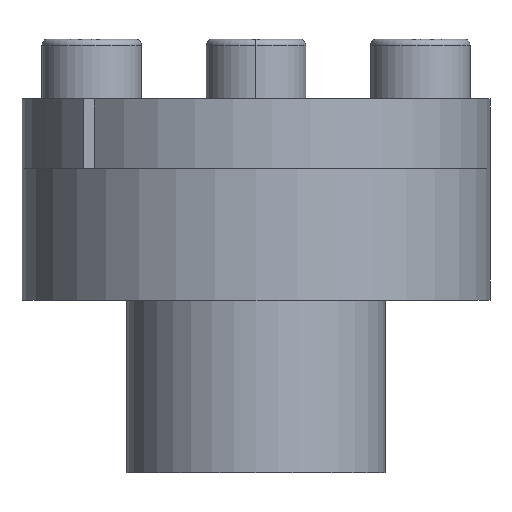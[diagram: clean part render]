
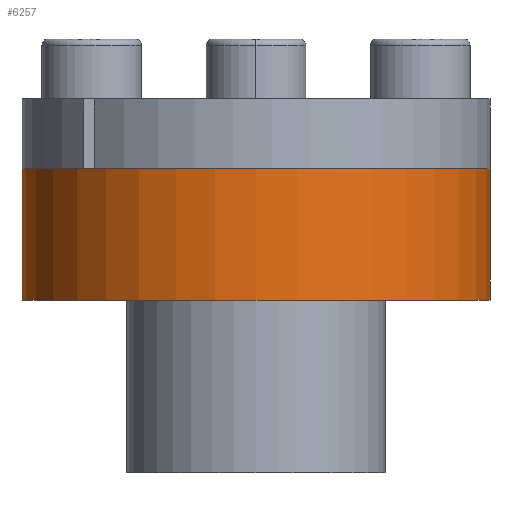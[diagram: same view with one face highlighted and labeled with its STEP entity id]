
A CAD part, front view. The second image highlights one B-rep face of the part: STEP entity #6257.
In plain terms, the highlighted cylindrical face has radius 23.5 mm (diameter 47 mm), a partial arc.
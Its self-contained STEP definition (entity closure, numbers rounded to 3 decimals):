
#36 = ORIENTED_EDGE ( 'NONE', *, *, #5739, .F. ) ;
#139 = FACE_OUTER_BOUND ( 'NONE', #3530, .T. ) ;
#154 = VECTOR ( 'NONE', #2641, 1000. ) ;
#408 = CARTESIAN_POINT ( 'NONE',  ( 23.5, 0., 4.549 ) ) ;
#653 = AXIS2_PLACEMENT_3D ( 'NONE', #4633, #955, #5244 ) ;
#783 = ORIENTED_EDGE ( 'NONE', *, *, #7330, .F. ) ;
#809 = CARTESIAN_POINT ( 'NONE',  ( 0., 0., -8.651 ) ) ;
#955 = DIRECTION ( 'NONE',  ( 0., 0., 1. ) ) ;
#1445 = DIRECTION ( 'NONE',  ( 1., 0., 0. ) ) ;
#2101 = LINE ( 'NONE', #3250, #6775 ) ;
#2246 = ORIENTED_EDGE ( 'NONE', *, *, #7095, .T. ) ;
#2641 = DIRECTION ( 'NONE',  ( 0., 0., -1. ) ) ;
#3154 = CARTESIAN_POINT ( 'NONE',  ( 0., 0., 4.549 ) ) ;
#3250 = CARTESIAN_POINT ( 'NONE',  ( -23.5, 0., 4.549 ) ) ;
#3304 = CARTESIAN_POINT ( 'NONE',  ( 23.5, 0., 4.549 ) ) ;
#3516 = AXIS2_PLACEMENT_3D ( 'NONE', #809, #5094, #1445 ) ;
#3530 = EDGE_LOOP ( 'NONE', ( #36, #783, #2246, #7793 ) ) ;
#3782 = CIRCLE ( 'NONE', #3516, 23.5 ) ;
#3966 = CARTESIAN_POINT ( 'NONE',  ( -23.5, 0., -8.651 ) ) ;
#4067 = CARTESIAN_POINT ( 'NONE',  ( 23.5, 0., -8.651 ) ) ;
#4210 = LINE ( 'NONE', #3304, #154 ) ;
#4375 = DIRECTION ( 'NONE',  ( 0., 0., -1. ) ) ;
#4633 = CARTESIAN_POINT ( 'NONE',  ( 0., 0., 4.549 ) ) ;
#5094 = DIRECTION ( 'NONE',  ( 0., 0., 1. ) ) ;
#5244 = DIRECTION ( 'NONE',  ( 1., 0., 0. ) ) ;
#5329 = VERTEX_POINT ( 'NONE', #6906 ) ;
#5616 = CIRCLE ( 'NONE', #653, 23.5 ) ;
#5739 = EDGE_CURVE ( 'NONE', #6505, #6469, #4210, .T. ) ;
#6084 = CYLINDRICAL_SURFACE ( 'NONE', #6536, 23.5 ) ;
#6257 = ADVANCED_FACE ( 'NONE', ( #139 ), #6084, .T. ) ;
#6273 = DIRECTION ( 'NONE',  ( 0., 0., -1. ) ) ;
#6469 = VERTEX_POINT ( 'NONE', #4067 ) ;
#6505 = VERTEX_POINT ( 'NONE', #408 ) ;
#6536 = AXIS2_PLACEMENT_3D ( 'NONE', #3154, #4375, #6830 ) ;
#6775 = VECTOR ( 'NONE', #6273, 1000. ) ;
#6830 = DIRECTION ( 'NONE',  ( -1., 0., 0. ) ) ;
#6906 = CARTESIAN_POINT ( 'NONE',  ( -23.5, 0., 4.549 ) ) ;
#7095 = EDGE_CURVE ( 'NONE', #5329, #7249, #2101, .T. ) ;
#7249 = VERTEX_POINT ( 'NONE', #3966 ) ;
#7330 = EDGE_CURVE ( 'NONE', #5329, #6505, #5616, .T. ) ;
#7577 = EDGE_CURVE ( 'NONE', #7249, #6469, #3782, .T. ) ;
#7793 = ORIENTED_EDGE ( 'NONE', *, *, #7577, .T. ) ;
